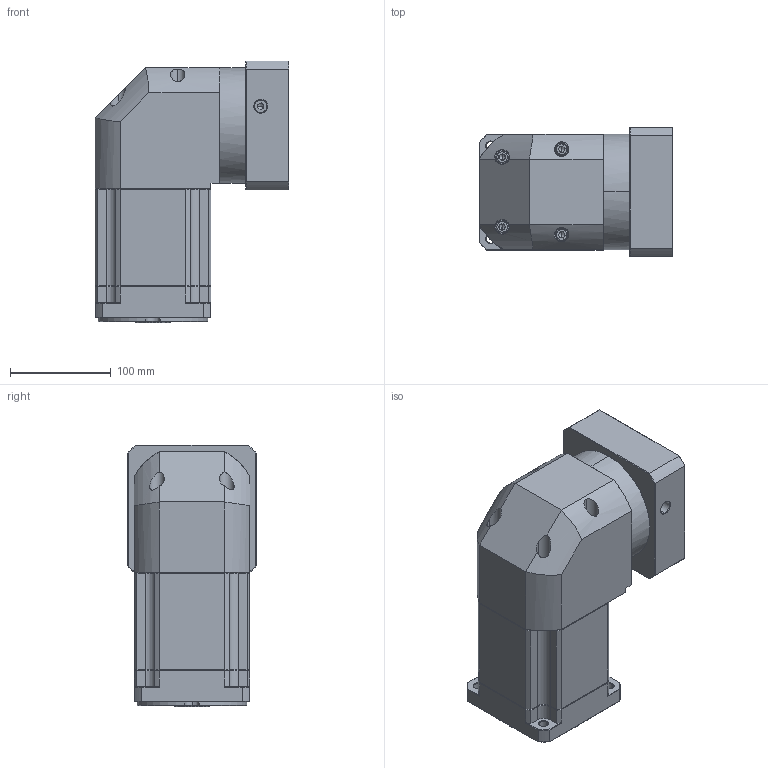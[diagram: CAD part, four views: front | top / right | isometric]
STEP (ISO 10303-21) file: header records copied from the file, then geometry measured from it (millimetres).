
FILE_DESCRIPTION (( 'STEP AP214' ), '1' );
FILE_NAME ('ZBR115A-K25-L3-P2-19-110-145-M8.step', '2023-08-26T12:45:19', ( '' ), ( '' ), 'SwSTEP 2.0', 'SolidWorks 2016', '' );
FILE_SCHEMA (( 'AUTOMOTIVE_DESIGN' ));
Length unit declared in the file: millimetre
Products named in the file (1): ZBR115A-K25-L3-P2-19-110-145-M8
Bounding box: 192.4 x 128 x 260 mm (x, y, z)
Volume: 3657801.9 mm3; surface area: 276240.5 mm2
Topology: 6 solids, 6 shells, 2324 faces, 6081 edges, 3861 vertices
Faces by surface type: plane 1132, bspline 416, cylinder 406, cone 362, torus 8
Entity records: 122610 total; most frequent: CARTESIAN_POINT 43290, ORIENTED_EDGE 12106, DIRECTION 9579, EDGE_CURVE 6053, LINE 3937, VECTOR 3937, VERTEX_POINT 3861, AXIS2_PLACEMENT_3D 2821
